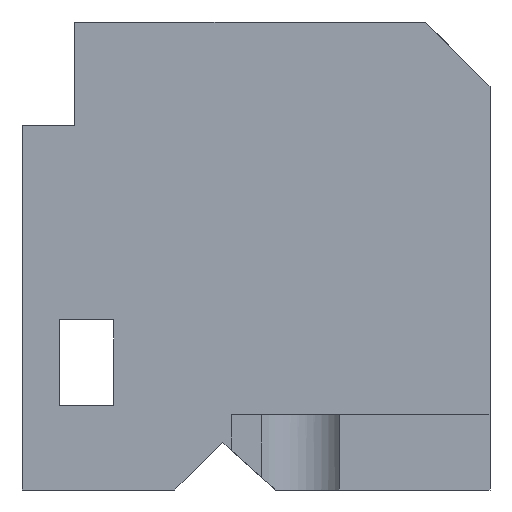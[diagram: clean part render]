
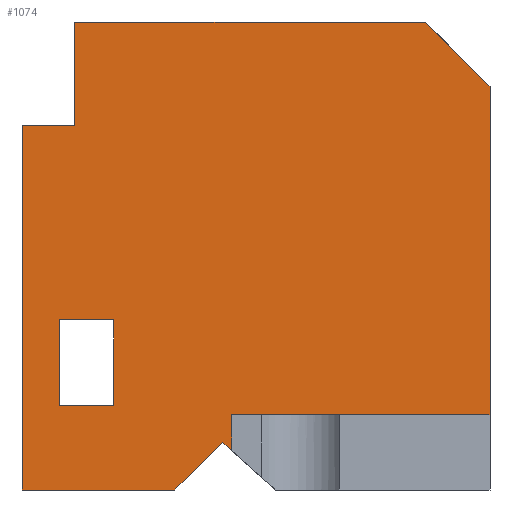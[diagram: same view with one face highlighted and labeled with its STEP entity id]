
A CAD part, front view. The second image highlights one B-rep face of the part: STEP entity #1074.
In plain terms, the highlighted planar face has unit normal (0, -1, 0).
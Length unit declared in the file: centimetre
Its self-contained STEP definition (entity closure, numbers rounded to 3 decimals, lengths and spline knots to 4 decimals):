
#6 = DIRECTION ( 'NONE',  ( 0.707, 0., 0.707 ) ) ;
#17 = EDGE_CURVE ( 'NONE', #167, #358, #1050, .T. ) ;
#25 = VECTOR ( 'NONE', #81, 100. ) ;
#32 = VECTOR ( 'NONE', #1026, 100. ) ;
#49 = LINE ( 'NONE', #771, #639 ) ;
#51 = VECTOR ( 'NONE', #796, 100. ) ;
#57 = ORIENTED_EDGE ( 'NONE', *, *, #98, .F. ) ;
#63 = EDGE_CURVE ( 'NONE', #934, #568, #964, .T. ) ;
#64 = DIRECTION ( 'NONE',  ( -1., 0., 0. ) ) ;
#66 = CARTESIAN_POINT ( 'NONE',  ( 1000., 0., 862.3404 ) ) ;
#72 = CARTESIAN_POINT ( 'NONE',  ( 428.9486, 0., 102.2684 ) ) ;
#81 = DIRECTION ( 'NONE',  ( 0.74, 0., -0.672 ) ) ;
#82 = VERTEX_POINT ( 'NONE', #237 ) ;
#98 = EDGE_CURVE ( 'NONE', #686, #344, #880, .T. ) ;
#123 = VERTEX_POINT ( 'NONE', #408 ) ;
#130 = VECTOR ( 'NONE', #597, 100. ) ;
#135 = CARTESIAN_POINT ( 'NONE',  ( 448.0156, 0., 0. ) ) ;
#139 = EDGE_CURVE ( 'NONE', #82, #323, #310, .T. ) ;
#167 = VERTEX_POINT ( 'NONE', #246 ) ;
#169 = ORIENTED_EDGE ( 'NONE', *, *, #661, .F. ) ;
#178 = DIRECTION ( 'NONE',  ( 0., 0., -1. ) ) ;
#182 = EDGE_CURVE ( 'NONE', #1065, #934, #886, .T. ) ;
#183 = DIRECTION ( 'NONE',  ( 0., 0., 1. ) ) ;
#209 = ORIENTED_EDGE ( 'NONE', *, *, #224, .F. ) ;
#218 = DIRECTION ( 'NONE',  ( 0., 0., 1. ) ) ;
#224 = EDGE_CURVE ( 'NONE', #167, #822, #960, .T. ) ;
#232 = EDGE_CURVE ( 'NONE', #987, #358, #723, .T. ) ;
#233 = CARTESIAN_POINT ( 'NONE',  ( 196.1761, 0., 363.4396 ) ) ;
#234 = CARTESIAN_POINT ( 'NONE',  ( 448.0156, 0., 161.153 ) ) ;
#236 = VECTOR ( 'NONE', #899, 100. ) ;
#237 = CARTESIAN_POINT ( 'NONE',  ( 79.9529, 0., 180.9257 ) ) ;
#244 = ORIENTED_EDGE ( 'NONE', *, *, #182, .T. ) ;
#246 = CARTESIAN_POINT ( 'NONE',  ( 448.0156, 0., 161.153 ) ) ;
#257 = DIRECTION ( 'NONE',  ( 0., 0., -1. ) ) ;
#266 = DIRECTION ( 'NONE',  ( 1., 0., 0. ) ) ;
#275 = CARTESIAN_POINT ( 'NONE',  ( 0., 0., 1000. ) ) ;
#278 = PLANE ( 'NONE',  #859 ) ;
#285 = CARTESIAN_POINT ( 'NONE',  ( 0., 0., 779.1575 ) ) ;
#288 = EDGE_CURVE ( 'NONE', #123, #822, #743, .T. ) ;
#310 = LINE ( 'NONE', #329, #649 ) ;
#323 = VERTEX_POINT ( 'NONE', #625 ) ;
#329 = CARTESIAN_POINT ( 'NONE',  ( 79.9529, 0., 180.9257 ) ) ;
#335 = EDGE_LOOP ( 'NONE', ( #884, #1062, #57, #169 ) ) ;
#343 = ORIENTED_EDGE ( 'NONE', *, *, #1022, .F. ) ;
#344 = VERTEX_POINT ( 'NONE', #357 ) ;
#357 = CARTESIAN_POINT ( 'NONE',  ( 79.9529, 0., 363.4396 ) ) ;
#358 = VERTEX_POINT ( 'NONE', #807 ) ;
#378 = VECTOR ( 'NONE', #6, 100. ) ;
#393 = VECTOR ( 'NONE', #998, 100. ) ;
#395 = EDGE_CURVE ( 'NONE', #987, #703, #1168, .T. ) ;
#408 = CARTESIAN_POINT ( 'NONE',  ( 428.9486, 0., 102.2684 ) ) ;
#428 = CARTESIAN_POINT ( 'NONE',  ( 0., 0., 1000. ) ) ;
#440 = CARTESIAN_POINT ( 'NONE',  ( 79.9529, 0., 180.9257 ) ) ;
#466 = LINE ( 'NONE', #837, #378 ) ;
#469 = CARTESIAN_POINT ( 'NONE',  ( 326.6802, 0., 0. ) ) ;
#483 = ORIENTED_EDGE ( 'NONE', *, *, #878, .T. ) ;
#487 = CARTESIAN_POINT ( 'NONE',  ( 862.3404, 0., 1000. ) ) ;
#507 = CARTESIAN_POINT ( 'NONE',  ( 0., 0., 0. ) ) ;
#518 = CARTESIAN_POINT ( 'NONE',  ( 79.9529, 0., 363.4396 ) ) ;
#542 = ORIENTED_EDGE ( 'NONE', *, *, #603, .T. ) ;
#558 = VECTOR ( 'NONE', #64, 100. ) ;
#563 = LINE ( 'NONE', #285, #32 ) ;
#568 = VERTEX_POINT ( 'NONE', #469 ) ;
#590 = ORIENTED_EDGE ( 'NONE', *, *, #395, .T. ) ;
#597 = DIRECTION ( 'NONE',  ( 1., 0., 0. ) ) ;
#601 = ORIENTED_EDGE ( 'NONE', *, *, #17, .T. ) ;
#603 = EDGE_CURVE ( 'NONE', #568, #123, #466, .T. ) ;
#609 = VECTOR ( 'NONE', #266, 100. ) ;
#623 = ORIENTED_EDGE ( 'NONE', *, *, #232, .F. ) ;
#625 = CARTESIAN_POINT ( 'NONE',  ( 196.1761, 0., 180.9257 ) ) ;
#639 = VECTOR ( 'NONE', #218, 100. ) ;
#647 = CARTESIAN_POINT ( 'NONE',  ( 0., 0., 1000. ) ) ;
#649 = VECTOR ( 'NONE', #873, 100. ) ;
#650 = VECTOR ( 'NONE', #178, 100. ) ;
#661 = EDGE_CURVE ( 'NONE', #323, #686, #49, .T. ) ;
#662 = CARTESIAN_POINT ( 'NONE',  ( 112.4334, 0., 779.1575 ) ) ;
#686 = VERTEX_POINT ( 'NONE', #233 ) ;
#698 = ORIENTED_EDGE ( 'NONE', *, *, #288, .T. ) ;
#703 = VERTEX_POINT ( 'NONE', #487 ) ;
#715 = LINE ( 'NONE', #1058, #51 ) ;
#723 = LINE ( 'NONE', #1090, #393 ) ;
#741 = VECTOR ( 'NONE', #257, 100. ) ;
#743 = LINE ( 'NONE', #72, #25 ) ;
#771 = CARTESIAN_POINT ( 'NONE',  ( 196.1761, 0., 180.9257 ) ) ;
#793 = EDGE_CURVE ( 'NONE', #344, #82, #977, .T. ) ;
#796 = DIRECTION ( 'NONE',  ( 0., 0., -1. ) ) ;
#805 = ORIENTED_EDGE ( 'NONE', *, *, #63, .T. ) ;
#807 = CARTESIAN_POINT ( 'NONE',  ( 1000., 0., 161.153 ) ) ;
#822 = VERTEX_POINT ( 'NONE', #1155 ) ;
#837 = CARTESIAN_POINT ( 'NONE',  ( 326.6802, 0., 0. ) ) ;
#859 = AXIS2_PLACEMENT_3D ( 'NONE', #647, #1092, #183 ) ;
#869 = EDGE_LOOP ( 'NONE', ( #209, #601, #623, #590, #343, #483, #1051, #244, #805, #542, #698 ) ) ;
#873 = DIRECTION ( 'NONE',  ( 1., 0., 0. ) ) ;
#874 = CARTESIAN_POINT ( 'NONE',  ( 0., 0., 0. ) ) ;
#878 = EDGE_CURVE ( 'NONE', #1007, #1131, #715, .T. ) ;
#880 = LINE ( 'NONE', #518, #558 ) ;
#884 = ORIENTED_EDGE ( 'NONE', *, *, #139, .F. ) ;
#886 = LINE ( 'NONE', #428, #1116 ) ;
#899 = DIRECTION ( 'NONE',  ( -0.707, 0., 0.707 ) ) ;
#934 = VERTEX_POINT ( 'NONE', #874 ) ;
#960 = LINE ( 'NONE', #135, #650 ) ;
#964 = LINE ( 'NONE', #507, #130 ) ;
#977 = LINE ( 'NONE', #440, #741 ) ;
#987 = VERTEX_POINT ( 'NONE', #66 ) ;
#993 = FACE_BOUND ( 'NONE', #335, .T. ) ;
#998 = DIRECTION ( 'NONE',  ( 0., 0., -1. ) ) ;
#1007 = VERTEX_POINT ( 'NONE', #1153 ) ;
#1012 = CARTESIAN_POINT ( 'NONE',  ( 0., 0., 779.1575 ) ) ;
#1019 = VECTOR ( 'NONE', #1061, 100. ) ;
#1022 = EDGE_CURVE ( 'NONE', #1007, #703, #1078, .T. ) ;
#1026 = DIRECTION ( 'NONE',  ( -1., 0., 0. ) ) ;
#1050 = LINE ( 'NONE', #234, #1019 ) ;
#1051 = ORIENTED_EDGE ( 'NONE', *, *, #1144, .T. ) ;
#1058 = CARTESIAN_POINT ( 'NONE',  ( 112.4334, 0., 779.1575 ) ) ;
#1061 = DIRECTION ( 'NONE',  ( 1., 0., 0. ) ) ;
#1062 = ORIENTED_EDGE ( 'NONE', *, *, #793, .F. ) ;
#1065 = VERTEX_POINT ( 'NONE', #1012 ) ;
#1073 = CARTESIAN_POINT ( 'NONE',  ( 862.3404, 0., 1000. ) ) ;
#1074 = ADVANCED_FACE ( 'NONE', ( #993, #1094 ), #278, .F. ) ;
#1078 = LINE ( 'NONE', #275, #609 ) ;
#1090 = CARTESIAN_POINT ( 'NONE',  ( 1000., 0., 1000. ) ) ;
#1092 = DIRECTION ( 'NONE',  ( 0., 1., 0. ) ) ;
#1094 = FACE_OUTER_BOUND ( 'NONE', #869, .T. ) ;
#1116 = VECTOR ( 'NONE', #1150, 100. ) ;
#1131 = VERTEX_POINT ( 'NONE', #662 ) ;
#1144 = EDGE_CURVE ( 'NONE', #1131, #1065, #563, .T. ) ;
#1150 = DIRECTION ( 'NONE',  ( 0., 0., -1. ) ) ;
#1153 = CARTESIAN_POINT ( 'NONE',  ( 112.4334, 0., 1000. ) ) ;
#1155 = CARTESIAN_POINT ( 'NONE',  ( 448.0156, 0., 84.9439 ) ) ;
#1168 = LINE ( 'NONE', #1073, #236 ) ;
